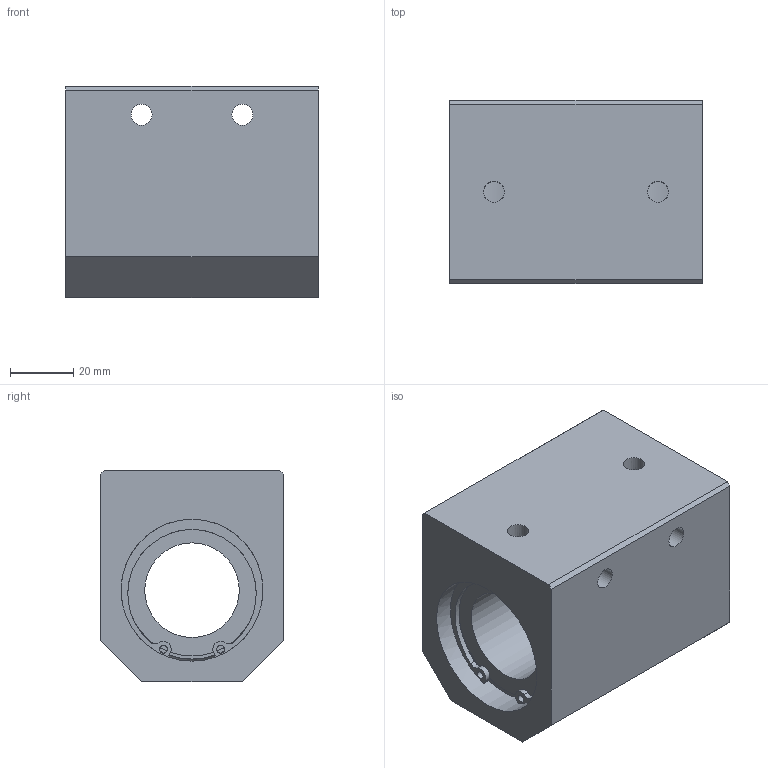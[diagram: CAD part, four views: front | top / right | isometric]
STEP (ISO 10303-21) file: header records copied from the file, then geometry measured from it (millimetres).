
FILE_DESCRIPTION((''),'2;1');
FILE_NAME('D:\製品 (図面)\カタログ用3D\リニアベアリング関連(改)\STEP形式\CH\CH30.stp','2010-01-25T09:35:16',('Tsuchiya'),(''),'Autodesk Inventor 10','Autodesk Inventor 10','');
FILE_SCHEMA(('AUTOMOTIVE_DESIGN { 1 0 10303 214 1 1 1 1 }'));
Length unit declared in the file: millimetre
Products named in the file (1): CH30
Bounding box: 80 x 58 x 67 mm (x, y, z)
Volume: 220168.9 mm3; surface area: 39219.6 mm2
Topology: 1 solids, 3 shells, 75 faces, 207 edges, 128 vertices
Faces by surface type: plane 33, bspline 22, cylinder 18, torus 2
Full cylindrical faces by diameter (mm): 2.5 x2, 30 x1, 41.7 x2, 43 x2, 45 x4
Entity records: 2538 total; most frequent: CARTESIAN_POINT 742, DIRECTION 388, ORIENTED_EDGE 336, AXIS2_PLACEMENT_3D 168, EDGE_CURVE 168, EDGE_LOOP 118, CIRCLE 114, VERTEX_POINT 112
